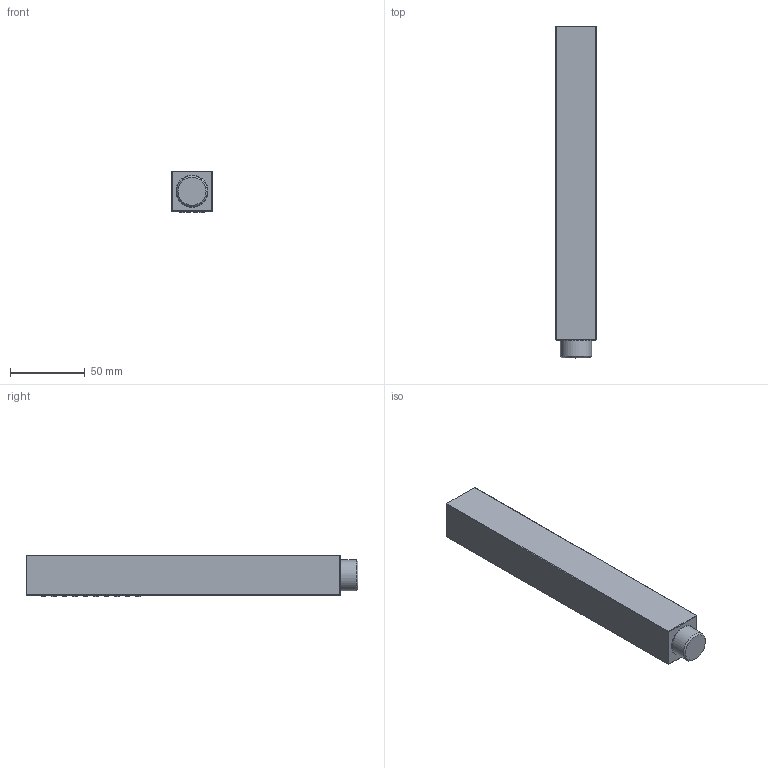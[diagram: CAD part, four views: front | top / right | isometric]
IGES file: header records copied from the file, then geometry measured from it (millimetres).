
Global section: file name: No Iges File Name specified; native system: AutoDesk Inventor R6.1; preprocessor: AutoDesk Inventor Iges Exporter R6.1; author: No Author specified; organization: No Organization specified; date: 20070629.092610; units: millimetre
Bounding box: 27 x 222 x 28 mm (x, y, z)
Surface area: 25492.9 mm2 (no closed solid volume)
Topology: 0 solids, 0 shells, 317 faces, 1311 edges, 1262 vertices
Faces by surface type: plane 257, revolution 59, bspline 1
